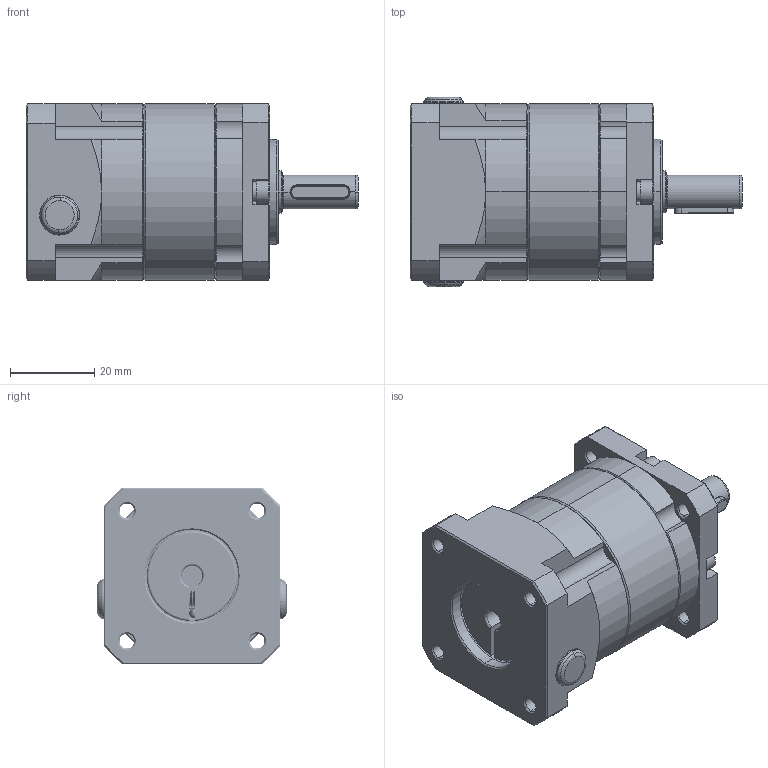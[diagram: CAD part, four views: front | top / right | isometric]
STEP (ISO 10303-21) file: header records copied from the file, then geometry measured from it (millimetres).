
FILE_DESCRIPTION (( 'STEP AP203' ), '1' );
FILE_NAME ('PRF42-L1.STEP', '2024-12-31T05:32:43', ( '微软用户' ), ( '微软中国' ), 'SwSTEP 2.0', 'SolidWorks 2022', '' );
FILE_SCHEMA (( 'CONFIG_CONTROL_DESIGN' ));
Length unit declared in the file: millimetre
Products named in the file (20): 标准型弹性垫圈(装配)3]_3; 孔用弹性挡圈A型24_24; PRFL42-04-05S-怀堤粣; 普通A型楔键键 3×3×14_键 3×3×14; PRF42-L1; PRFL42-05-（345S）-输入轴; 内六角圆柱头螺钉M3×32_M3×30; PRFL42-02-菁釱; PRFL42-07-05S太阳齿(切除工艺台阶）; 轴用弹性挡圈A型10_10; 轴用弹性挡圈A型12_12; PRF42-01-傷裔; PRFL42-03-L1-内齿圈; 孔塞7; PRFL42-08-菜え; 孔用弹性挡圈A型22_22; 深沟球轴承61901_61901; 深沟球轴承61900_61900; PRFL42-06-05S俴陎喘; 内六角圆柱头螺钉M4×10_M4×10
Assembly tree (30 placements, depth 2):
  PRF42-L1
    PRFL42-02-菁釱
    PRFL42-05-（345S）-输入轴
    内六角圆柱头螺钉M4×10_M4×10
    PRFL42-07-05S太阳齿(切除工艺台阶）
    深沟球轴承61901_61901
    孔用弹性挡圈A型24_24
    轴用弹性挡圈A型12_12
    PRFL42-04-05S-怀堤粣
    PRFL42-06-05S俴陎喘  x3
    深沟球轴承61900_61900  x2
    PRF42-01-傷裔
    孔用弹性挡圈A型22_22  x2
    轴用弹性挡圈A型10_10
    PRFL42-08-菜え
    PRFL42-03-L1-内齿圈
    内六角圆柱头螺钉M3×32_M3×30  x4
    标准型弹性垫圈(装配)3]_3  x4
    普通A型楔键键 3×3×14_键 3×3×14
    孔塞7  x2
Bounding box: 79 x 45 x 42 mm (x, y, z)
Volume: 73450.6 mm3; surface area: 46401.8 mm2
Topology: 74 solids, 74 shells, 2861 faces, 7263 edges, 4507 vertices
Faces by surface type: cone 955, cylinder 847, bspline 383, plane 325, sphere 176, torus 175
Entity records: 85948 total; most frequent: CARTESIAN_POINT 39499, ORIENTED_EDGE 9400, DIRECTION 9039, EDGE_CURVE 4700, AXIS2_PLACEMENT_3D 3835, VERTEX_POINT 2991, CIRCLE 2179, EDGE_LOOP 2073
